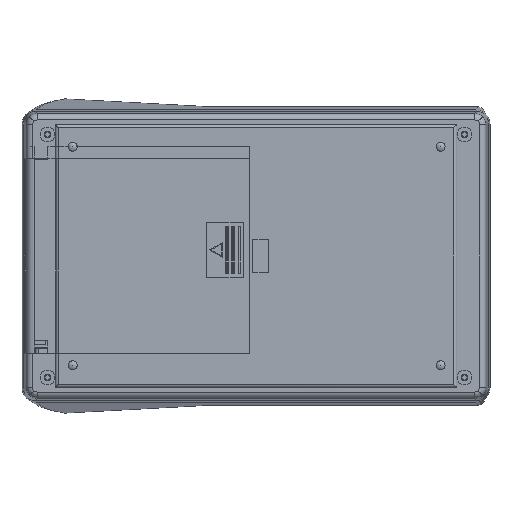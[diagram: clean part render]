
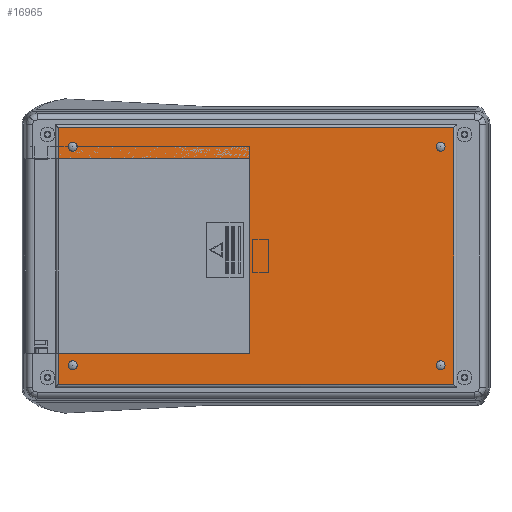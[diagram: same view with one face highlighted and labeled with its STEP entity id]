
A CAD part, front view. The second image highlights one B-rep face of the part: STEP entity #16965.
In plain terms, the highlighted planar face has unit normal (0, -1, 0).
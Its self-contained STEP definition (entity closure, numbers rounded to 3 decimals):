
#89 = ORIENTED_EDGE ( 'NONE', *, *, #13128, .T. ) ;
#265 = ORIENTED_EDGE ( 'NONE', *, *, #2094, .F. ) ;
#412 = VECTOR ( 'NONE', #12314, 1000. ) ;
#431 = EDGE_LOOP ( 'NONE', ( #5240, #11233, #265, #2388, #28427, #19897, #89, #6689 ) ) ;
#495 = EDGE_LOOP ( 'NONE', ( #17948, #18025 ) ) ;
#572 = AXIS2_PLACEMENT_3D ( 'NONE', #1662, #17108, #3857 ) ;
#574 = AXIS2_PLACEMENT_3D ( 'NONE', #6761, #22179, #8984 ) ;
#674 = CARTESIAN_POINT ( 'NONE',  ( -57.5, -16., 32.9 ) ) ;
#963 = DIRECTION ( 'NONE',  ( 0., 0., -1. ) ) ;
#1051 = DIRECTION ( 'NONE',  ( -1., 0., 0. ) ) ;
#1278 = DIRECTION ( 'NONE',  ( 0., -1., 0. ) ) ;
#1345 = EDGE_CURVE ( 'NONE', #24806, #2479, #15310, .T. ) ;
#1465 = AXIS2_PLACEMENT_3D ( 'NONE', #5505, #20962, #7751 ) ;
#1662 = CARTESIAN_POINT ( 'NONE',  ( -57.5, -16., 34.3 ) ) ;
#1725 = CARTESIAN_POINT ( 'NONE',  ( 62., -16., 40.25 ) ) ;
#2094 = EDGE_CURVE ( 'NONE', #9215, #7827, #12841, .T. ) ;
#2354 = ORIENTED_EDGE ( 'NONE', *, *, #24106, .F. ) ;
#2388 = ORIENTED_EDGE ( 'NONE', *, *, #6605, .T. ) ;
#2479 = VERTEX_POINT ( 'NONE', #7046 ) ;
#2751 = DIRECTION ( 'NONE',  ( -1., 0., 0. ) ) ;
#3260 = LINE ( 'NONE', #18702, #26091 ) ;
#3352 = CARTESIAN_POINT ( 'NONE',  ( -2., -16., -30.5 ) ) ;
#3388 = FACE_BOUND ( 'NONE', #13988, .T. ) ;
#3488 = AXIS2_PLACEMENT_3D ( 'NONE', #9064, #24537, #11307 ) ;
#3655 = EDGE_CURVE ( 'NONE', #7827, #24684, #26597, .T. ) ;
#3857 = DIRECTION ( 'NONE',  ( 0., 0., -1. ) ) ;
#4084 = CARTESIAN_POINT ( 'NONE',  ( 57.9, -16., -34.3 ) ) ;
#4535 = CIRCLE ( 'NONE', #12270, 1.4 ) ;
#4843 = AXIS2_PLACEMENT_3D ( 'NONE', #7308, #22758, #9534 ) ;
#4864 = AXIS2_PLACEMENT_3D ( 'NONE', #4084, #19522, #6291 ) ;
#5205 = LINE ( 'NONE', #15891, #16284 ) ;
#5240 = ORIENTED_EDGE ( 'NONE', *, *, #28262, .F. ) ;
#5466 = EDGE_CURVE ( 'NONE', #8461, #24761, #26083, .T. ) ;
#5495 = VERTEX_POINT ( 'NONE', #23777 ) ;
#5505 = CARTESIAN_POINT ( 'NONE',  ( 57.9, -16., 34.3 ) ) ;
#5512 = CARTESIAN_POINT ( 'NONE',  ( -62., -16., -30.5 ) ) ;
#5721 = EDGE_CURVE ( 'NONE', #17843, #8053, #6684, .T. ) ;
#5748 = CARTESIAN_POINT ( 'NONE',  ( -63., -16., 41.25 ) ) ;
#5860 = CARTESIAN_POINT ( 'NONE',  ( -57.5, -16., -34.3 ) ) ;
#5971 = CARTESIAN_POINT ( 'NONE',  ( -57.5, -16., -35.7 ) ) ;
#6291 = DIRECTION ( 'NONE',  ( 0., 0., -1. ) ) ;
#6414 = CARTESIAN_POINT ( 'NONE',  ( 57.9, -16., 35.7 ) ) ;
#6605 = EDGE_CURVE ( 'NONE', #9215, #8934, #15611, .T. ) ;
#6676 = VERTEX_POINT ( 'NONE', #1725 ) ;
#6684 = CIRCLE ( 'NONE', #1465, 1.4 ) ;
#6689 = ORIENTED_EDGE ( 'NONE', *, *, #20174, .T. ) ;
#6761 = CARTESIAN_POINT ( 'NONE',  ( 57.9, -16., -34.3 ) ) ;
#7046 = CARTESIAN_POINT ( 'NONE',  ( 57.9, -16., -32.9 ) ) ;
#7180 = VERTEX_POINT ( 'NONE', #7564 ) ;
#7296 = CARTESIAN_POINT ( 'NONE',  ( -2., -16., 30.5 ) ) ;
#7308 = CARTESIAN_POINT ( 'NONE',  ( -57.5, -16., 34.3 ) ) ;
#7420 = CARTESIAN_POINT ( 'NONE',  ( 63., -16., -40.25 ) ) ;
#7564 = CARTESIAN_POINT ( 'NONE',  ( -57.5, -16., -32.9 ) ) ;
#7751 = DIRECTION ( 'NONE',  ( 0., 0., -1. ) ) ;
#7775 = EDGE_CURVE ( 'NONE', #8934, #18713, #13414, .T. ) ;
#7827 = VERTEX_POINT ( 'NONE', #3352 ) ;
#8053 = VERTEX_POINT ( 'NONE', #6414 ) ;
#8116 = DIRECTION ( 'NONE',  ( 0., 0., -1. ) ) ;
#8460 = EDGE_CURVE ( 'NONE', #24761, #8461, #18195, .T. ) ;
#8461 = VERTEX_POINT ( 'NONE', #674 ) ;
#8934 = VERTEX_POINT ( 'NONE', #20018 ) ;
#8984 = DIRECTION ( 'NONE',  ( 0., 0., -1. ) ) ;
#9064 = CARTESIAN_POINT ( 'NONE',  ( 57.9, -16., 34.3 ) ) ;
#9215 = VERTEX_POINT ( 'NONE', #5512 ) ;
#9278 = FACE_BOUND ( 'NONE', #27451, .T. ) ;
#9534 = DIRECTION ( 'NONE',  ( 0., 0., -1. ) ) ;
#9635 = DIRECTION ( 'NONE',  ( 1., 0., 0. ) ) ;
#9642 = VECTOR ( 'NONE', #26277, 1000. ) ;
#10018 = LINE ( 'NONE', #15980, #25599 ) ;
#10313 = DIRECTION ( 'NONE',  ( 0., 0., -1. ) ) ;
#10560 = AXIS2_PLACEMENT_3D ( 'NONE', #5860, #21341, #8116 ) ;
#10792 = CARTESIAN_POINT ( 'NONE',  ( -2., -16., -30.5 ) ) ;
#11233 = ORIENTED_EDGE ( 'NONE', *, *, #3655, .F. ) ;
#11249 = EDGE_LOOP ( 'NONE', ( #19492, #16924 ) ) ;
#11307 = DIRECTION ( 'NONE',  ( 0., 0., -1. ) ) ;
#12220 = CIRCLE ( 'NONE', #10560, 1.4 ) ;
#12270 = AXIS2_PLACEMENT_3D ( 'NONE', #14519, #1278, #16720 ) ;
#12314 = DIRECTION ( 'NONE',  ( 1., 0., 0. ) ) ;
#12841 = LINE ( 'NONE', #25946, #412 ) ;
#13128 = EDGE_CURVE ( 'NONE', #6676, #25696, #3260, .T. ) ;
#13197 = CARTESIAN_POINT ( 'NONE',  ( 62., -16., -40.25 ) ) ;
#13414 = LINE ( 'NONE', #7420, #24468 ) ;
#13699 = EDGE_CURVE ( 'NONE', #23895, #7180, #12220, .T. ) ;
#13988 = EDGE_LOOP ( 'NONE', ( #15571, #15368 ) ) ;
#14084 = ORIENTED_EDGE ( 'NONE', *, *, #1345, .F. ) ;
#14349 = CARTESIAN_POINT ( 'NONE',  ( 57.9, -16., -35.7 ) ) ;
#14519 = CARTESIAN_POINT ( 'NONE',  ( -57.5, -16., -34.3 ) ) ;
#14660 = VECTOR ( 'NONE', #963, 1000. ) ;
#14846 = EDGE_CURVE ( 'NONE', #18713, #6676, #5205, .T. ) ;
#15310 = CIRCLE ( 'NONE', #4864, 1.4 ) ;
#15368 = ORIENTED_EDGE ( 'NONE', *, *, #13699, .F. ) ;
#15571 = ORIENTED_EDGE ( 'NONE', *, *, #27155, .F. ) ;
#15611 = LINE ( 'NONE', #16903, #20781 ) ;
#15891 = CARTESIAN_POINT ( 'NONE',  ( 62., -16., 41.25 ) ) ;
#15980 = CARTESIAN_POINT ( 'NONE',  ( -2., -16., 30.5 ) ) ;
#16284 = VECTOR ( 'NONE', #18094, 1000. ) ;
#16396 = CARTESIAN_POINT ( 'NONE',  ( -62., -16., -41.25 ) ) ;
#16720 = DIRECTION ( 'NONE',  ( 0., 0., -1. ) ) ;
#16903 = CARTESIAN_POINT ( 'NONE',  ( -62., -16., -41.25 ) ) ;
#16924 = ORIENTED_EDGE ( 'NONE', *, *, #5721, .F. ) ;
#16965 = ADVANCED_FACE ( 'NONE', ( #26928, #21004, #9278, #3388, #26223 ), #19075, .T. ) ;
#17108 = DIRECTION ( 'NONE',  ( 0., -1., 0. ) ) ;
#17843 = VERTEX_POINT ( 'NONE', #18449 ) ;
#17948 = ORIENTED_EDGE ( 'NONE', *, *, #8460, .F. ) ;
#18025 = ORIENTED_EDGE ( 'NONE', *, *, #5466, .F. ) ;
#18094 = DIRECTION ( 'NONE',  ( 0., 0., 1. ) ) ;
#18195 = CIRCLE ( 'NONE', #4843, 1.4 ) ;
#18214 = AXIS2_PLACEMENT_3D ( 'NONE', #5748, #23524, #10313 ) ;
#18449 = CARTESIAN_POINT ( 'NONE',  ( 57.9, -16., 32.9 ) ) ;
#18516 = CIRCLE ( 'NONE', #574, 1.4 ) ;
#18580 = CARTESIAN_POINT ( 'NONE',  ( -57.5, -16., 35.7 ) ) ;
#18702 = CARTESIAN_POINT ( 'NONE',  ( -63., -16., 40.25 ) ) ;
#18713 = VERTEX_POINT ( 'NONE', #13197 ) ;
#19075 = PLANE ( 'NONE',  #18214 ) ;
#19390 = CARTESIAN_POINT ( 'NONE',  ( -62., -16., 40.25 ) ) ;
#19492 = ORIENTED_EDGE ( 'NONE', *, *, #24135, .F. ) ;
#19522 = DIRECTION ( 'NONE',  ( 0., -1., 0. ) ) ;
#19897 = ORIENTED_EDGE ( 'NONE', *, *, #14846, .T. ) ;
#20018 = CARTESIAN_POINT ( 'NONE',  ( -62., -16., -40.25 ) ) ;
#20174 = EDGE_CURVE ( 'NONE', #25696, #5495, #26422, .T. ) ;
#20781 = VECTOR ( 'NONE', #27944, 1000. ) ;
#20962 = DIRECTION ( 'NONE',  ( 0., -1., 0. ) ) ;
#21004 = FACE_OUTER_BOUND ( 'NONE', #431, .T. ) ;
#21341 = DIRECTION ( 'NONE',  ( 0., -1., 0. ) ) ;
#22179 = DIRECTION ( 'NONE',  ( 0., -1., 0. ) ) ;
#22758 = DIRECTION ( 'NONE',  ( 0., -1., 0. ) ) ;
#23524 = DIRECTION ( 'NONE',  ( 0., -1., 0. ) ) ;
#23712 = CIRCLE ( 'NONE', #3488, 1.4 ) ;
#23777 = CARTESIAN_POINT ( 'NONE',  ( -62., -16., 30.5 ) ) ;
#23895 = VERTEX_POINT ( 'NONE', #5971 ) ;
#24106 = EDGE_CURVE ( 'NONE', #2479, #24806, #18516, .T. ) ;
#24135 = EDGE_CURVE ( 'NONE', #8053, #17843, #23712, .T. ) ;
#24468 = VECTOR ( 'NONE', #9635, 1000. ) ;
#24537 = DIRECTION ( 'NONE',  ( 0., -1., 0. ) ) ;
#24684 = VERTEX_POINT ( 'NONE', #7296 ) ;
#24761 = VERTEX_POINT ( 'NONE', #18580 ) ;
#24806 = VERTEX_POINT ( 'NONE', #14349 ) ;
#25599 = VECTOR ( 'NONE', #2751, 1000. ) ;
#25696 = VERTEX_POINT ( 'NONE', #19390 ) ;
#25946 = CARTESIAN_POINT ( 'NONE',  ( -2., -16., -30.5 ) ) ;
#26083 = CIRCLE ( 'NONE', #572, 1.4 ) ;
#26091 = VECTOR ( 'NONE', #1051, 1000. ) ;
#26223 = FACE_BOUND ( 'NONE', #495, .T. ) ;
#26277 = DIRECTION ( 'NONE',  ( 0., 0., 1. ) ) ;
#26422 = LINE ( 'NONE', #16396, #14660 ) ;
#26597 = LINE ( 'NONE', #10792, #9642 ) ;
#26928 = FACE_BOUND ( 'NONE', #11249, .T. ) ;
#27155 = EDGE_CURVE ( 'NONE', #7180, #23895, #4535, .T. ) ;
#27451 = EDGE_LOOP ( 'NONE', ( #2354, #14084 ) ) ;
#27944 = DIRECTION ( 'NONE',  ( 0., 0., -1. ) ) ;
#28262 = EDGE_CURVE ( 'NONE', #24684, #5495, #10018, .T. ) ;
#28427 = ORIENTED_EDGE ( 'NONE', *, *, #7775, .T. ) ;
